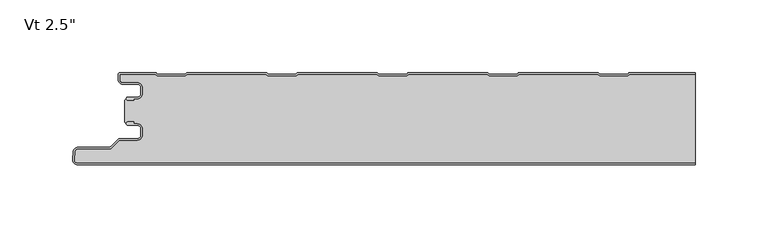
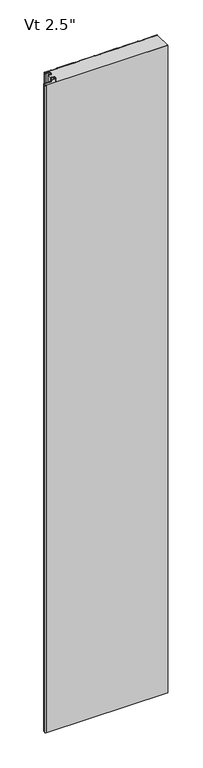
"""IFC4 building model written with IfcOpenShell, lengths in millimetres: plate geometry."""

from ifc_helpers import new_model, si_unit, point, frame, frame_2d, origin, origin_with_axes, place, context, project, spatial, polyline, circle_curve, trimmed, segment, composite_curve, outline, extrude, source, transform, mapped, element, save
from ifc_brep_helpers import plane_surface, cylinder_surface, revolved_surface, advanced_brep


def plate_b5c5fbf1(model_context):
    return source(origin(), model_context, "Body", "SolidModel", [
        advanced_brep(
        [(-194.568691, -17.0015405, 2400.0), (-195.5686883, -18.0015437, 2400.0), (-194.568691, -19.0015351, 2400.0), (-190.5684874, -19.0015351, 2400.0), (-190.5684874, -18.0015405, 2400.0), (-187.8762776, -18.0015405, 2400.0), (-184.5762819, -14.7015449, 2400.0), (-184.5762819, -10.3015536, 2400.0), (-187.8762774, -7.0015581, 2400.0), (-198.2962563, -7.0015581, 2400.0), (-200.0662505, -5.2315639, 2400.0), (-200.0662505, -1.0000163, 2400.0), (-175.5659738, -1.0000163, 2400.0), (-174.1803312, -2.2002553, 2400.0), (-154.8051649, -2.2002553, 2400.0), (-153.419532, -1.0000246, 2400.0), (-99.3661166, -1.0000246, 2400.0), (-97.9804836, -2.2002553, 2400.0), (-78.6053173, -2.2002553, 2400.0), (-77.2196844, -1.0000246, 2400.0), (-23.166269, -1.0000246, 2400.0), (-21.780636, -2.2002553, 2400.0), (-2.4054697, -2.2002553, 2400.0), (-1.0198368, -1.0000246, 2400.0), (53.0335786, -1.0000246, 2400.0), (54.4192116, -2.2002553, 2400.0), (73.7943779, -2.2002553, 2400.0), (75.1800108, -1.0000246, 2400.0), (129.2334262, -1.0000246, 2400.0), (130.6190592, -2.2002553, 2400.0), (149.9942255, -2.2002553, 2400.0), (151.3798584, -1.0000246, 2400.0), (196.5999998, -1.0000246, 2400.0), (196.5999998, -2.46e-05, 2400.0), (151.5290096, -2.46e-05, 2400.0), (150.6123927, -0.3418131, 2400.0), (149.6213451, -1.2002553, 2400.0), (130.9919396, -1.2002553, 2400.0), (130.000892, -0.3418131, 2400.0), (129.0842751, -2.46e-05, 2400.0), (75.329162, -2.46e-05, 2400.0), (74.4125451, -0.3418131, 2400.0), (73.4214975, -1.2002553, 2400.0), (54.792092, -1.2002553, 2400.0), (53.8010444, -0.3418131, 2400.0), (52.8844275, -2.46e-05, 2400.0), (-0.8706856, -2.46e-05, 2400.0), (-1.7873025, -0.3418131, 2400.0), (-2.7783501, -1.2002553, 2400.0), (-21.4077556, -1.2002553, 2400.0), (-22.3988032, -0.3418131, 2400.0), (-23.3154201, -2.46e-05, 2400.0), (-77.0705332, -2.46e-05, 2400.0), (-77.9871501, -0.3418131, 2400.0), (-78.9781977, -1.2002553, 2400.0), (-97.6076032, -1.2002553, 2400.0), (-98.5986508, -0.3418131, 2400.0), (-99.5152677, -2.46e-05, 2400.0), (-153.2703808, -2.46e-05, 2400.0), (-154.1869977, -0.3418131, 2400.0), (-155.1780453, -1.2002553, 2400.0), (-173.8074508, -1.2002553, 2400.0), (-174.7984984, -0.3418131, 2400.0), (-175.7152067, -2.46e-05, 2400.0), (-199.6662543, -1.63e-05, 2400.0), (-201.0662505, -1.4000124, 2400.0), (-201.0662505, -5.2315639, 2400.0), (-198.2962563, -8.0015581, 2400.0), (-187.8762774, -8.0015581, 2400.0), (-185.5762819, -10.3015536, 2400.0), (-185.5762819, -14.7015449, 2400.0), (-187.8762776, -17.0015405, 2400.0), (-194.568691, -17.0015405, 0.0), (-187.8762776, -17.0015405, 0.0), (-185.5762819, -14.7015449, 0.0), (-185.5762819, -10.3015536, 0.0), (-187.8762774, -8.0015581, 0.0), (-198.2962563, -8.0015581, 0.0), (-201.0662505, -5.2315639, 0.0), (-201.0662505, -1.4000124, 0.0), (-199.6662543, -1.63e-05, 0.0), (-175.7151153, -1.63e-05, 0.0), (-174.7984984, -0.3418131, 0.0), (-173.8074508, -1.2002553, 0.0), (-155.1780453, -1.2002553, 0.0), (-154.1869977, -0.3418131, 0.0), (-153.2703808, -2.46e-05, 0.0), (-99.5152677, -2.46e-05, 0.0), (-98.5986508, -0.3418131, 0.0), (-97.6076032, -1.2002553, 0.0), (-78.9781977, -1.2002553, 0.0), (-77.9871501, -0.3418131, 0.0), (-77.0705332, -2.46e-05, 0.0), (-23.3154201, -2.46e-05, 0.0), (-22.3988032, -0.3418131, 0.0), (-21.4077556, -1.2002553, 0.0), (-2.7783501, -1.2002553, 0.0), (-1.7873025, -0.3418131, 0.0), (-0.8706856, -2.46e-05, 0.0), (52.8844275, -2.46e-05, 0.0), (53.8010444, -0.3418131, 0.0), (54.792092, -1.2002553, 0.0), (73.4214975, -1.2002553, 0.0), (74.4125451, -0.3418131, 0.0), (75.329162, -2.46e-05, 0.0), (129.0842751, -2.46e-05, 0.0), (130.000892, -0.3418131, 0.0), (130.9919396, -1.2002553, 0.0), (149.6213451, -1.2002553, 0.0), (150.6123927, -0.3418131, 0.0), (151.5290096, -2.46e-05, 0.0), (196.5999998, -2.46e-05, 0.0), (196.5999998, -1.0000246, 0.0), (151.3798584, -1.0000246, 0.0), (149.9942255, -2.2002553, 0.0), (130.6190592, -2.2002553, 0.0), (129.2334262, -1.0000246, 0.0), (75.1800108, -1.0000246, 0.0), (73.7943779, -2.2002553, 0.0), (54.4192116, -2.2002553, 0.0), (53.0335786, -1.0000246, 0.0), (-1.0198368, -1.0000246, 0.0), (-2.4054697, -2.2002553, 0.0), (-21.780636, -2.2002553, 0.0), (-23.166269, -1.0000246, 0.0), (-77.2196844, -1.0000246, 0.0), (-78.6053173, -2.2002553, 0.0), (-97.9804836, -2.2002553, 0.0), (-99.3661166, -1.0000246, 0.0), (-153.419532, -1.0000246, 0.0), (-154.8051649, -2.2002553, 0.0), (-174.1803312, -2.2002553, 0.0), (-175.5659738, -1.0000163, 0.0), (-200.0662505, -1.0000163, 0.0), (-200.0662505, -5.2315639, 0.0), (-198.2962563, -7.0015581, 0.0), (-187.8762774, -7.0015581, 0.0), (-184.5762819, -10.3015536, 0.0), (-184.5762819, -14.7015449, 0.0), (-187.8762776, -18.0015405, 0.0), (-190.5684874, -18.0015405, 0.0), (-190.5684874, -19.0015351, 0.0), (-194.568691, -19.0015351, 0.0), (-195.5686882, -18.0015438, 0.0)],
        [
            (0, 1, circle_curve(frame((-194.568691, -18.0015378, 2400.0), z_axis=(0.0, 0.0, 1.0), x_axis=(1.0, 0.0, 0.0)), 0.9999973)),
            (1, 2, circle_curve(frame((-194.568691, -18.0015379, 2400.0), z_axis=(0.0, 0.0, 1.0), x_axis=(1.0, 0.0, 0.0)), 0.9999972)),
            (2, 3),
            (3, 4),
            (4, 5),
            (5, 6, circle_curve(frame((-187.8762776, -14.7015449, 2400.0), z_axis=(0.0, 0.0, 1.0), x_axis=(1.0, 0.0, 0.0)), 3.2999957)),
            (6, 7),
            (7, 8, circle_curve(frame((-187.8762774, -10.3015536, 2400.0), z_axis=(0.0, 0.0, 1.0), x_axis=(1.0, 0.0, 0.0)), 3.2999955)),
            (8, 9),
            (9, 10, circle_curve(frame((-198.2962563, -5.2315639, 2400.0), z_axis=(0.0, 0.0, -1.0), x_axis=(1.0, 0.0, 0.0)), 1.7699942)),
            (10, 11),
            (11, 12),
            (12, 13),
            (13, 14),
            (14, 15),
            (15, 16),
            (16, 17),
            (17, 18),
            (18, 19),
            (19, 20),
            (20, 21),
            (21, 22),
            (22, 23),
            (23, 24),
            (24, 25),
            (25, 26),
            (26, 27),
            (27, 28),
            (28, 29),
            (29, 30),
            (30, 31),
            (31, 32),
            (32, 33),
            (33, 34),
            (34, 35, circle_curve(frame((151.5290096, -1.4000218, 2400.0), z_axis=(0.0, 0.0, 1.0), x_axis=(1.0, 0.0, 0.0)), 1.3999972)),
            (35, 36),
            (36, 37),
            (37, 38),
            (38, 39, circle_curve(frame((129.0842751, -1.4000218, 2400.0), z_axis=(0.0, 0.0, 1.0), x_axis=(1.0, 0.0, 0.0)), 1.3999972)),
            (39, 40),
            (40, 41, circle_curve(frame((75.329162, -1.4000218, 2400.0), z_axis=(0.0, 0.0, 1.0), x_axis=(1.0, 0.0, 0.0)), 1.3999972)),
            (41, 42),
            (42, 43),
            (43, 44),
            (44, 45, circle_curve(frame((52.8844275, -1.4000218, 2400.0), z_axis=(0.0, 0.0, 1.0), x_axis=(1.0, 0.0, 0.0)), 1.3999972)),
            (45, 46),
            (46, 47, circle_curve(frame((-0.8706856, -1.4000218, 2400.0), z_axis=(0.0, 0.0, 1.0), x_axis=(1.0, 0.0, 0.0)), 1.3999972)),
            (47, 48),
            (48, 49),
            (49, 50),
            (50, 51, circle_curve(frame((-23.3154201, -1.4000218, 2400.0), z_axis=(0.0, 0.0, 1.0), x_axis=(1.0, 0.0, 0.0)), 1.3999972)),
            (51, 52),
            (52, 53, circle_curve(frame((-77.0705332, -1.4000218, 2400.0), z_axis=(0.0, 0.0, 1.0), x_axis=(1.0, 0.0, 0.0)), 1.3999972)),
            (53, 54),
            (54, 55),
            (55, 56),
            (56, 57, circle_curve(frame((-99.5152677, -1.4000218, 2400.0), z_axis=(0.0, 0.0, 1.0), x_axis=(1.0, 0.0, 0.0)), 1.3999972)),
            (57, 58),
            (58, 59, circle_curve(frame((-153.2703808, -1.4000218, 2400.0), z_axis=(0.0, 0.0, 1.0), x_axis=(1.0, 0.0, 0.0)), 1.3999972)),
            (59, 60),
            (60, 61),
            (61, 62),
            (62, 63, circle_curve(frame((-175.7151153, -1.4000218, 2400.0), z_axis=(0.0, 0.0, 1.0), x_axis=(1.0, 0.0, 0.0)), 1.3999972)),
            (63, 64),
            (64, 65, circle_curve(frame((-199.6662543, -1.4000124, 2400.0), z_axis=(0.0, 0.0, 1.0), x_axis=(1.0, 0.0, 0.0)), 1.3999962)),
            (65, 66),
            (66, 67, circle_curve(frame((-198.2962563, -5.2315639, 2400.0), z_axis=(0.0, 0.0, 1.0), x_axis=(1.0, 0.0, 0.0)), 2.7699942)),
            (67, 68),
            (68, 69, circle_curve(frame((-187.8762774, -10.3015536, 2400.0), z_axis=(0.0, 0.0, -1.0), x_axis=(1.0, 0.0, 0.0)), 2.2999955)),
            (69, 70),
            (70, 71, circle_curve(frame((-187.8762776, -14.7015449, 2400.0), z_axis=(0.0, 0.0, -1.0), x_axis=(1.0, 0.0, 0.0)), 2.2999957)),
            (71, 0),
            (72, 73),
            (73, 74, circle_curve(frame((-187.8762776, -14.7015449, 0.0), z_axis=(0.0, 0.0, 1.0), x_axis=(1.0, 0.0, 0.0)), 2.2999957)),
            (74, 75),
            (75, 76, circle_curve(frame((-187.8762774, -10.3015536, 0.0), z_axis=(0.0, 0.0, 1.0), x_axis=(1.0, 0.0, 0.0)), 2.2999955)),
            (76, 77),
            (77, 78, circle_curve(frame((-198.2962563, -5.2315639, 0.0), z_axis=(0.0, 0.0, -1.0), x_axis=(1.0, 0.0, 0.0)), 2.7699942)),
            (78, 79),
            (79, 80, circle_curve(frame((-199.6662543, -1.4000124, 0.0), z_axis=(0.0, 0.0, -1.0), x_axis=(1.0, 0.0, 0.0)), 1.3999962)),
            (80, 81),
            (81, 82, circle_curve(frame((-175.7151153, -1.4000218, 0.0), z_axis=(0.0, 0.0, -1.0), x_axis=(1.0, 0.0, 0.0)), 1.3999972)),
            (82, 83),
            (83, 84),
            (84, 85),
            (85, 86, circle_curve(frame((-153.2703808, -1.4000218, 0.0), z_axis=(0.0, 0.0, -1.0), x_axis=(1.0, 0.0, 0.0)), 1.3999972)),
            (86, 87),
            (87, 88, circle_curve(frame((-99.5152677, -1.4000218, 0.0), z_axis=(0.0, 0.0, -1.0), x_axis=(1.0, 0.0, 0.0)), 1.3999972)),
            (88, 89),
            (89, 90),
            (90, 91),
            (91, 92, circle_curve(frame((-77.0705332, -1.4000218, 0.0), z_axis=(0.0, 0.0, -1.0), x_axis=(1.0, 0.0, 0.0)), 1.3999972)),
            (92, 93),
            (93, 94, circle_curve(frame((-23.3154201, -1.4000218, 0.0), z_axis=(0.0, 0.0, -1.0), x_axis=(1.0, 0.0, 0.0)), 1.3999972)),
            (94, 95),
            (95, 96),
            (96, 97),
            (97, 98, circle_curve(frame((-0.8706856, -1.4000218, 0.0), z_axis=(0.0, 0.0, -1.0), x_axis=(1.0, 0.0, 0.0)), 1.3999972)),
            (98, 99),
            (99, 100, circle_curve(frame((52.8844275, -1.4000218, 0.0), z_axis=(0.0, 0.0, -1.0), x_axis=(1.0, 0.0, 0.0)), 1.3999972)),
            (100, 101),
            (101, 102),
            (102, 103),
            (103, 104, circle_curve(frame((75.329162, -1.4000218, 0.0), z_axis=(0.0, 0.0, -1.0), x_axis=(1.0, 0.0, 0.0)), 1.3999972)),
            (104, 105),
            (105, 106, circle_curve(frame((129.0842751, -1.4000218, 0.0), z_axis=(0.0, 0.0, -1.0), x_axis=(1.0, 0.0, 0.0)), 1.3999972)),
            (106, 107),
            (107, 108),
            (108, 109),
            (109, 110, circle_curve(frame((151.5290096, -1.4000218, 0.0), z_axis=(0.0, 0.0, -1.0), x_axis=(1.0, 0.0, 0.0)), 1.3999972)),
            (110, 111),
            (111, 112),
            (112, 113),
            (113, 114),
            (114, 115),
            (115, 116),
            (116, 117),
            (117, 118),
            (118, 119),
            (119, 120),
            (120, 121),
            (121, 122),
            (122, 123),
            (123, 124),
            (124, 125),
            (125, 126),
            (126, 127),
            (127, 128),
            (128, 129),
            (129, 130),
            (130, 131),
            (131, 132),
            (132, 133),
            (133, 134),
            (134, 135, circle_curve(frame((-198.2962563, -5.2315639, 0.0), z_axis=(0.0, 0.0, 1.0), x_axis=(1.0, 0.0, 0.0)), 1.7699942)),
            (135, 136),
            (136, 137, circle_curve(frame((-187.8762774, -10.3015536, 0.0), z_axis=(0.0, 0.0, -1.0), x_axis=(1.0, 0.0, 0.0)), 3.2999955)),
            (137, 138),
            (138, 139, circle_curve(frame((-187.8762776, -14.7015449, 0.0), z_axis=(0.0, 0.0, -1.0), x_axis=(1.0, 0.0, 0.0)), 3.2999957)),
            (139, 140),
            (140, 141),
            (141, 142),
            (142, 143, circle_curve(frame((-194.568691, -18.0015379, 0.0), z_axis=(0.0, 0.0, -1.0), x_axis=(1.0, 0.0, 0.0)), 0.9999972)),
            (143, 72, circle_curve(frame((-194.568691, -18.0015378, 0.0), z_axis=(0.0, 0.0, -1.0), x_axis=(1.0, 0.0, 0.0)), 0.9999973)),
            (32, 112),
            (111, 33),
            (71, 73),
            (72, 0),
            (70, 74),
            (69, 75),
            (68, 76),
            (67, 77),
            (66, 78),
            (65, 79),
            (64, 80),
            (63, 81),
            (62, 82),
            (61, 83),
            (60, 84),
            (59, 85),
            (58, 86),
            (57, 87),
            (56, 88),
            (55, 89),
            (54, 90),
            (53, 91),
            (52, 92),
            (51, 93),
            (50, 94),
            (49, 95),
            (48, 96),
            (47, 97),
            (46, 98),
            (45, 99),
            (44, 100),
            (43, 101),
            (42, 102),
            (41, 103),
            (40, 104),
            (39, 105),
            (38, 106),
            (37, 107),
            (36, 108),
            (35, 109),
            (34, 110),
            (31, 113),
            (30, 114),
            (29, 115),
            (28, 116),
            (27, 117),
            (26, 118),
            (25, 119),
            (24, 120),
            (23, 121),
            (22, 122),
            (21, 123),
            (20, 124),
            (19, 125),
            (18, 126),
            (17, 127),
            (16, 128),
            (15, 129),
            (14, 130),
            (13, 131),
            (12, 132),
            (11, 133),
            (10, 134),
            (9, 135),
            (8, 136),
            (7, 137),
            (6, 138),
            (5, 139),
            (4, 140),
            (3, 141),
            (2, 142),
            (1, 143),
        ],
        [
            plane_surface(frame((336.8000002, -2.46e-05, 2400.0), z_axis=(0.0, 0.0, 1.0), x_axis=(0.0, 1.0, 0.0))),
            plane_surface(frame((336.8000002, -2.46e-05, 0.0), z_axis=(0.0, 0.0, -1.0), x_axis=(0.0, 1.0, 0.0))),
            plane_surface(frame((196.5999998, -73.5000246, 2400.0), z_axis=(1.0, 0.0, 0.0), x_axis=(0.0, 0.0, -1.0))),
            plane_surface(frame((-194.568691, -17.0015405, 2400.0), z_axis=(0.0, 1.0, 0.0), x_axis=(0.0, 0.0, -1.0))),
            revolved_surface(polyline([(-185.5762819, -14.7015449, 0.0), (-185.5762819, -14.7015449, 2400.0)]), (-187.8762776, -14.7015449, 2400.0), (0.0, 0.0, -1.0)),
            plane_surface(frame((-185.5762819, -14.7015449, 2400.0), z_axis=(-1.0, 0.0, 0.0), x_axis=(0.0, 0.0, -1.0))),
            revolved_surface(polyline([(-185.5762819, -10.3015536, 0.0), (-185.5762819, -10.3015536, 2400.0)]), (-187.8762774, -10.3015536, 2400.0), (0.0, 0.0, -1.0)),
            plane_surface(frame((-187.8762774, -8.0015581, 2400.0), z_axis=(0.0, -1.0, 0.0), x_axis=(0.0, 0.0, -1.0))),
            cylinder_surface(frame((-198.2962563, -5.2315639, 2400.0), z_axis=(0.0, 0.0, 1.0), x_axis=(1.0, 0.0, 0.0)), 2.7699942),
            plane_surface(frame((-201.0662505, -5.2315639, 2400.0), z_axis=(-1.0, 0.0, 0.0), x_axis=(0.0, 0.0, -1.0))),
            cylinder_surface(frame((-199.6662543, -1.4000124, 2400.0), z_axis=(0.0, 0.0, 1.0), x_axis=(1.0, 0.0, 0.0)), 1.3999962),
            plane_surface(frame((-199.6662543, -1.63e-05, 2400.0), z_axis=(0.0, 1.0, 0.0), x_axis=(0.0, 0.0, -1.0))),
            cylinder_surface(frame((-175.7151153, -1.4000218, 2400.0), z_axis=(0.0, 0.0, 1.0), x_axis=(1.0, 0.0, 0.0)), 1.3999972),
            plane_surface(frame((-174.7984984, -0.3418131, 2400.0), z_axis=(0.6547276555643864, 0.7558648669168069, 0.0), x_axis=(0.0, 0.0, -1.0))),
            plane_surface(frame((-164.4927481, -1.2002553, 2400.0), z_axis=(0.0, 1.0, 0.0), x_axis=(0.0, 0.0, -1.0))),
            plane_surface(frame((-155.1780453, -1.2002553, 2400.0), z_axis=(-0.6547276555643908, 0.7558648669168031, 0.0), x_axis=(0.0, 0.0, -1.0))),
            cylinder_surface(frame((-153.2703808, -1.4000218, 2400.0), z_axis=(0.0, 0.0, 1.0), x_axis=(1.0, 0.0, 0.0)), 1.3999972),
            plane_surface(frame((-153.2703808, -2.46e-05, 2400.0), z_axis=(0.0, 1.0, 0.0), x_axis=(0.0, 0.0, -1.0))),
            cylinder_surface(frame((-99.5152677, -1.4000218, 2400.0), z_axis=(0.0, 0.0, 1.0), x_axis=(1.0, 0.0, 0.0)), 1.3999972),
            plane_surface(frame((-98.5986508, -0.3418131, 2400.0), z_axis=(0.6547276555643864, 0.7558648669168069, 0.0), x_axis=(0.0, 0.0, -1.0))),
            plane_surface(frame((-88.2929005, -1.2002553, 2400.0), z_axis=(0.0, 1.0, 0.0), x_axis=(0.0, 0.0, -1.0))),
            plane_surface(frame((-78.9781977, -1.2002553, 2400.0), z_axis=(-0.6547276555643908, 0.7558648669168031, 0.0), x_axis=(0.0, 0.0, -1.0))),
            cylinder_surface(frame((-77.0705332, -1.4000218, 2400.0), z_axis=(0.0, 0.0, 1.0), x_axis=(1.0, 0.0, 0.0)), 1.3999972),
            plane_surface(frame((-77.0705332, -2.46e-05, 2400.0), z_axis=(0.0, 1.0, 0.0), x_axis=(0.0, 0.0, -1.0))),
            cylinder_surface(frame((-23.3154201, -1.4000218, 2400.0), z_axis=(0.0, 0.0, 1.0), x_axis=(1.0, 0.0, 0.0)), 1.3999972),
            plane_surface(frame((-22.3988032, -0.3418131, 2400.0), z_axis=(0.6547276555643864, 0.7558648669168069, 0.0), x_axis=(0.0, 0.0, -1.0))),
            plane_surface(frame((-12.0930529, -1.2002553, 2400.0), z_axis=(0.0, 1.0, 0.0), x_axis=(0.0, 0.0, -1.0))),
            plane_surface(frame((-2.7783501, -1.2002553, 2400.0), z_axis=(-0.6547276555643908, 0.7558648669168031, 0.0), x_axis=(0.0, 0.0, -1.0))),
            cylinder_surface(frame((-0.8706856, -1.4000218, 2400.0), z_axis=(0.0, 0.0, 1.0), x_axis=(1.0, 0.0, 0.0)), 1.3999972),
            plane_surface(frame((-0.8706856, -2.46e-05, 2400.0), z_axis=(0.0, 1.0, 0.0), x_axis=(0.0, 0.0, -1.0))),
            cylinder_surface(frame((52.8844275, -1.4000218, 2400.0), z_axis=(0.0, 0.0, 1.0), x_axis=(1.0, 0.0, 0.0)), 1.3999972),
            plane_surface(frame((53.8010444, -0.3418131, 2400.0), z_axis=(0.6547276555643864, 0.7558648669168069, 0.0), x_axis=(0.0, 0.0, -1.0))),
            plane_surface(frame((64.1067947, -1.2002553, 2400.0), z_axis=(0.0, 1.0, 0.0), x_axis=(0.0, 0.0, -1.0))),
            plane_surface(frame((73.4214975, -1.2002553, 2400.0), z_axis=(-0.6547276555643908, 0.7558648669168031, 0.0), x_axis=(0.0, 0.0, -1.0))),
            cylinder_surface(frame((75.329162, -1.4000218, 2400.0), z_axis=(0.0, 0.0, 1.0), x_axis=(1.0, 0.0, 0.0)), 1.3999972),
            plane_surface(frame((75.329162, -2.46e-05, 2400.0), z_axis=(0.0, 1.0, 0.0), x_axis=(0.0, 0.0, -1.0))),
            cylinder_surface(frame((129.0842751, -1.4000218, 2400.0), z_axis=(0.0, 0.0, 1.0), x_axis=(1.0, 0.0, 0.0)), 1.3999972),
            plane_surface(frame((130.000892, -0.3418131, 2400.0), z_axis=(0.6547276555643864, 0.7558648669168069, 0.0), x_axis=(0.0, 0.0, -1.0))),
            plane_surface(frame((140.3066423, -1.2002553, 2400.0), z_axis=(0.0, 1.0, 0.0), x_axis=(0.0, 0.0, -1.0))),
            plane_surface(frame((149.6213451, -1.2002553, 2400.0), z_axis=(-0.6547276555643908, 0.7558648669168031, 0.0), x_axis=(0.0, 0.0, -1.0))),
            cylinder_surface(frame((151.5290096, -1.4000218, 2400.0), z_axis=(0.0, 0.0, 1.0), x_axis=(1.0, 0.0, 0.0)), 1.3999972),
            plane_surface(frame((151.5290096, -2.46e-05, 2400.0), z_axis=(0.0, 1.0, 0.0), x_axis=(0.0, 0.0, -1.0))),
            plane_surface(frame((205.4332738, -1.0000246, 2400.0), z_axis=(0.0, -1.0, 0.0), x_axis=(0.0, 0.0, -1.0))),
            plane_surface(frame((151.3798584, -1.0000246, 2400.0), z_axis=(0.6547276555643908, -0.7558648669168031, 0.0), x_axis=(0.0, 0.0, -1.0))),
            plane_surface(frame((149.9942255, -2.2002553, 2400.0), z_axis=(0.0, -1.0, 0.0), x_axis=(0.0, 0.0, -1.0))),
            plane_surface(frame((130.6190592, -2.2002553, 2400.0), z_axis=(-0.6547276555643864, -0.7558648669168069, 0.0), x_axis=(0.0, 0.0, -1.0))),
            plane_surface(frame((129.2334262, -1.0000246, 2400.0), z_axis=(0.0, -1.0, 0.0), x_axis=(0.0, 0.0, -1.0))),
            plane_surface(frame((75.1800108, -1.0000246, 2400.0), z_axis=(0.6547276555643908, -0.7558648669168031, 0.0), x_axis=(0.0, 0.0, -1.0))),
            plane_surface(frame((73.7943779, -2.2002553, 2400.0), z_axis=(0.0, -1.0, 0.0), x_axis=(0.0, 0.0, -1.0))),
            plane_surface(frame((54.4192116, -2.2002553, 2400.0), z_axis=(-0.6547276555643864, -0.7558648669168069, 0.0), x_axis=(0.0, 0.0, -1.0))),
            plane_surface(frame((53.0335786, -1.0000246, 2400.0), z_axis=(0.0, -1.0, 0.0), x_axis=(0.0, 0.0, -1.0))),
            plane_surface(frame((-1.0198368, -1.0000246, 2400.0), z_axis=(0.6547276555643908, -0.7558648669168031, 0.0), x_axis=(0.0, 0.0, -1.0))),
            plane_surface(frame((-2.4054697, -2.2002553, 2400.0), z_axis=(0.0, -1.0, 0.0), x_axis=(0.0, 0.0, -1.0))),
            plane_surface(frame((-21.780636, -2.2002553, 2400.0), z_axis=(-0.6547276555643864, -0.7558648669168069, 0.0), x_axis=(0.0, 0.0, -1.0))),
            plane_surface(frame((-23.166269, -1.0000246, 2400.0), z_axis=(0.0, -1.0, 0.0), x_axis=(0.0, 0.0, -1.0))),
            plane_surface(frame((-77.2196844, -1.0000246, 2400.0), z_axis=(0.6547276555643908, -0.7558648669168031, 0.0), x_axis=(0.0, 0.0, -1.0))),
            plane_surface(frame((-78.6053173, -2.2002553, 2400.0), z_axis=(0.0, -1.0, 0.0), x_axis=(0.0, 0.0, -1.0))),
            plane_surface(frame((-97.9804836, -2.2002553, 2400.0), z_axis=(-0.6547276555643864, -0.7558648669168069, 0.0), x_axis=(0.0, 0.0, -1.0))),
            plane_surface(frame((-99.3661166, -1.0000246, 2400.0), z_axis=(0.0, -1.0, 0.0), x_axis=(0.0, 0.0, -1.0))),
            plane_surface(frame((-153.419532, -1.0000246, 2400.0), z_axis=(0.6547276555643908, -0.7558648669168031, 0.0), x_axis=(0.0, 0.0, -1.0))),
            plane_surface(frame((-154.8051649, -2.2002553, 2400.0), z_axis=(0.0, -1.0, 0.0), x_axis=(0.0, 0.0, -1.0))),
            plane_surface(frame((-174.1803312, -2.2002553, 2400.0), z_axis=(-0.6547276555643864, -0.7558648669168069, 0.0), x_axis=(0.0, 0.0, -1.0))),
            plane_surface(frame((-175.5659738, -1.0000163, 2400.0), z_axis=(0.0, -1.0, 0.0), x_axis=(0.0, 0.0, -1.0))),
            plane_surface(frame((-200.0662505, -1.0000163, 2400.0), z_axis=(1.0, 0.0, 0.0), x_axis=(0.0, 0.0, -1.0))),
            revolved_surface(polyline([(-196.5262621, -5.2315639, 0.0), (-196.5262621, -5.2315639, 2400.0)]), (-198.2962563, -5.2315639, 2400.0), (0.0, 0.0, -1.0)),
            plane_surface(frame((-198.2962563, -7.0015581, 2400.0), z_axis=(0.0, 1.0, 0.0), x_axis=(0.0, 0.0, -1.0))),
            cylinder_surface(frame((-187.8762774, -10.3015536, 2400.0), z_axis=(0.0, 0.0, 1.0), x_axis=(1.0, 0.0, 0.0)), 3.2999955),
            plane_surface(frame((-184.5762819, -10.3015536, 2400.0), z_axis=(1.0, 0.0, 0.0), x_axis=(0.0, 0.0, -1.0))),
            cylinder_surface(frame((-187.8762776, -14.7015449, 2400.0), z_axis=(0.0, 0.0, 1.0), x_axis=(1.0, 0.0, 0.0)), 3.2999957),
            plane_surface(frame((-187.8762776, -18.0015405, 2400.0), z_axis=(0.0, -1.0, 0.0), x_axis=(0.0, 0.0, -1.0))),
            plane_surface(frame((-190.5684874, -18.0015405, 2400.0), z_axis=(1.0, 0.0, 0.0), x_axis=(0.0, 0.0, -1.0))),
            plane_surface(frame((-190.5684874, -19.0015351, 2400.0), z_axis=(0.0, -1.0, 0.0), x_axis=(0.0, 0.0, -1.0))),
            cylinder_surface(frame((-194.568691, -18.0015379, 2400.0), z_axis=(0.0, 0.0, 1.0), x_axis=(1.0, 0.0, 0.0)), 0.9999972),
            cylinder_surface(frame((-194.568691, -18.0015378, 2400.0), z_axis=(0.0, 0.0, 1.0), x_axis=(1.0, 0.0, 0.0)), 0.9999973),
        ],
        [
            (0, [[1, 2, 3, 4, 5, 6, 7, 8, 9, 10, 11, 12, 13, 14, 15, 16, 17, 18, 19, 20, 21, 22, 23, 24, 25, 26, 27, 28, 29, 30, 31, 32, 33, 34, 35, 36, 37, 38, 39, 40, 41, 42, 43, 44, 45, 46, 47, 48, 49, 50, 51, 52, 53, 54, 55, 56, 57, 58, 59, 60, 61, 62, 63, 64, 65, 66, 67, 68, 69, 70, 71, 72]]),
            (1, [[73, 74, 75, 76, 77, 78, 79, 80, 81, 82, 83, 84, 85, 86, 87, 88, 89, 90, 91, 92, 93, 94, 95, 96, 97, 98, 99, 100, 101, 102, 103, 104, 105, 106, 107, 108, 109, 110, 111, 112, 113, 114, 115, 116, 117, 118, 119, 120, 121, 122, 123, 124, 125, 126, 127, 128, 129, 130, 131, 132, 133, 134, 135, 136, 137, 138, 139, 140, 141, 142, 143, 144]]),
            (2, [[145, -112, 146, -33]]),
            (3, [[147, -73, 148, -72]]),
            (4, [[149, -74, -147, -71]]),
            (5, [[150, -75, -149, -70]]),
            (6, [[151, -76, -150, -69]]),
            (7, [[152, -77, -151, -68]]),
            (8, [[153, -78, -152, -67]]),
            (9, [[154, -79, -153, -66]]),
            (10, [[155, -80, -154, -65]]),
            (11, [[156, -81, -155, -64]]),
            (12, [[157, -82, -156, -63]]),
            (13, [[158, -83, -157, -62]]),
            (14, [[159, -84, -158, -61]]),
            (15, [[160, -85, -159, -60]]),
            (16, [[161, -86, -160, -59]]),
            (17, [[162, -87, -161, -58]]),
            (18, [[163, -88, -162, -57]]),
            (19, [[164, -89, -163, -56]]),
            (20, [[165, -90, -164, -55]]),
            (21, [[166, -91, -165, -54]]),
            (22, [[167, -92, -166, -53]]),
            (23, [[168, -93, -167, -52]]),
            (24, [[169, -94, -168, -51]]),
            (25, [[170, -95, -169, -50]]),
            (26, [[171, -96, -170, -49]]),
            (27, [[172, -97, -171, -48]]),
            (28, [[173, -98, -172, -47]]),
            (29, [[174, -99, -173, -46]]),
            (30, [[175, -100, -174, -45]]),
            (31, [[176, -101, -175, -44]]),
            (32, [[177, -102, -176, -43]]),
            (33, [[178, -103, -177, -42]]),
            (34, [[179, -104, -178, -41]]),
            (35, [[180, -105, -179, -40]]),
            (36, [[181, -106, -180, -39]]),
            (37, [[182, -107, -181, -38]]),
            (38, [[183, -108, -182, -37]]),
            (39, [[184, -109, -183, -36]]),
            (40, [[185, -110, -184, -35]]),
            (41, [[-34, -146, -111, -185]]),
            (42, [[-113, -145, -32, 186]]),
            (43, [[187, -114, -186, -31]]),
            (44, [[188, -115, -187, -30]]),
            (45, [[189, -116, -188, -29]]),
            (46, [[190, -117, -189, -28]]),
            (47, [[191, -118, -190, -27]]),
            (48, [[192, -119, -191, -26]]),
            (49, [[193, -120, -192, -25]]),
            (50, [[194, -121, -193, -24]]),
            (51, [[195, -122, -194, -23]]),
            (52, [[196, -123, -195, -22]]),
            (53, [[197, -124, -196, -21]]),
            (54, [[198, -125, -197, -20]]),
            (55, [[199, -126, -198, -19]]),
            (56, [[200, -127, -199, -18]]),
            (57, [[201, -128, -200, -17]]),
            (58, [[202, -129, -201, -16]]),
            (59, [[203, -130, -202, -15]]),
            (60, [[204, -131, -203, -14]]),
            (61, [[205, -132, -204, -13]]),
            (62, [[206, -133, -205, -12]]),
            (63, [[207, -134, -206, -11]]),
            (64, [[208, -135, -207, -10]]),
            (65, [[209, -136, -208, -9]]),
            (66, [[210, -137, -209, -8]]),
            (67, [[211, -138, -210, -7]]),
            (68, [[212, -139, -211, -6]]),
            (69, [[213, -140, -212, -5]]),
            (70, [[214, -141, -213, -4]]),
            (71, [[215, -142, -214, -3]]),
            (72, [[216, -143, -215, -2]]),
            (73, [[-148, -144, -216, -1]]),
        ],
    ),
        extrude(outline(composite_curve([segment(polyline([(-232.6087619, -59.6191544), (-232.1690674, -54.5951077)]), True, "CONTINUOUS"), segment(trimmed(circle_curve(frame_2d((-228.5198391, -55.2059089)), 3.6999926), [point((-232.1690674, -54.5951077))], [point((-228.5198391, -51.5059163))], False, "CARTESIAN"), True, "CONTINUOUS"), segment(polyline([(-228.5198391, -51.5059163), (-207.3773995, -51.5059163)]), True, "CONTINUOUS"), segment(trimmed(circle_curve(frame_2d((-207.3773995, -50.2059189)), 1.2999974), [point((-207.3773995, -51.5059163))], [point((-206.4581626, -51.1251558))], True, "CARTESIAN"), True, "CONTINUOUS"), segment(polyline([(-206.4581626, -51.1251558), (-201.6297451, -46.2967384)]), True, "CONTINUOUS"), segment(trimmed(circle_curve(frame_2d((-199.7205606, -48.2059229)), 2.6999946), [point((-201.6297451, -46.2967384))], [point((-199.7205606, -45.5059283))], False, "CARTESIAN"), True, "CONTINUOUS"), segment(polyline([(-199.7205606, -45.5059283), (-187.9096715, -45.5059283)]), True, "CONTINUOUS"), segment(trimmed(circle_curve(frame_2d((-187.9096715, -43.155933)), 2.3499953), [point((-187.9096715, -45.5059283))], [point((-185.5596762, -43.155933))], True, "CARTESIAN"), True, "CONTINUOUS"), segment(polyline([(-185.5596762, -43.155933), (-185.5596762, -38.7559418)]), True, "CONTINUOUS"), segment(trimmed(circle_curve(frame_2d((-187.9096715, -38.7559418)), 2.3499953), [point((-185.5596762, -38.7559418))], [point((-187.9096715, -36.4059465))], True, "CARTESIAN"), True, "CONTINUOUS"), segment(polyline([(-187.9096715, -36.4059465), (-194.4289777, -36.4059465)]), True, "CONTINUOUS"), segment(trimmed(circle_curve(frame_2d((-194.3686906, -35.2074642)), 1.1999976), [point((-194.4289777, -36.4059465))], [point((-195.5683, -35.1769423))], False, "CARTESIAN"), True, "CONTINUOUS"), segment(trimmed(circle_curve(frame_2d((-194.3686906, -35.2074642)), 1.1999976), [point((-195.5683, -35.1769423))], [point((-194.367176, -34.0074676))], False, "CARTESIAN"), True, "CONTINUOUS"), segment(polyline([(-194.367176, -34.0074676), (-190.6087826, -34.0074676), (-190.6087826, -35.4059465), (-187.9096715, -35.4059465)]), True, "CONTINUOUS"), segment(trimmed(circle_curve(frame_2d((-187.9096715, -38.7559418)), 3.3499953), [point((-187.9096715, -35.4059465))], [point((-184.5596762, -38.7559418))], False, "CARTESIAN"), True, "CONTINUOUS"), segment(polyline([(-184.5596762, -38.7559418), (-184.5596762, -43.155933)]), True, "CONTINUOUS"), segment(trimmed(circle_curve(frame_2d((-187.9096715, -43.155933)), 3.3499953), [point((-184.5596762, -43.155933))], [point((-187.9096715, -46.5059283))], False, "CARTESIAN"), True, "CONTINUOUS"), segment(polyline([(-187.9096715, -46.5059283), (-199.7205606, -46.5059283)]), True, "CONTINUOUS"), segment(trimmed(circle_curve(frame_2d((-199.7205606, -48.2059229)), 1.6999946), [point((-199.7205606, -46.5059283))], [point((-200.9226383, -47.0038451))], True, "CARTESIAN"), True, "CONTINUOUS"), segment(polyline([(-200.9226383, -47.0038451), (-206.4247094, -52.5059163), (-228.5198391, -52.5059163)]), True, "CONTINUOUS"), segment(trimmed(circle_curve(frame_2d((-228.5198391, -55.2059089)), 2.6999926), [point((-228.5198391, -52.5059163))], [point((-231.1765707, -54.7245182))], True, "CARTESIAN"), True, "CONTINUOUS"), segment(polyline([(-231.1765707, -54.7245182), (-231.6125697, -59.7063391)]), True, "CONTINUOUS"), segment(trimmed(circle_curve(frame_2d((-229.0521175, -59.9304248)), 2.5702393), [point((-231.6125697, -59.7063391))], [point((-229.1094458, -62.5000246))], True, "CARTESIAN"), True, "CONTINUOUS"), segment(polyline([(-229.1094458, -62.5000246), (196.5999998, -62.5000246), (196.5999998, -63.5000246), (-229.1196851, -63.5000246)]), True, "CONTINUOUS"), segment(trimmed(circle_curve(frame_2d((-229.0521175, -59.9304248)), 3.5702393), [point((-229.1196851, -63.5000246))], [point((-232.6087619, -59.6191544))], False, "CARTESIAN"), True, "CONTINUOUS")], self_intersect=False)), origin_with_axes(), (0.0, 0.0, 1.0), 2400.0),
        advanced_brep(
        [(-195.5683, -35.1708996, 2400.0), (-194.367176, -34.0014249, 2400.0), (-190.6087826, -34.0014249, 2400.0), (-190.6087826, -35.3999038, 2400.0), (-187.9096715, -35.3999038, 2400.0), (-184.5596762, -38.7498991, 2400.0), (-184.5596762, -43.1498903, 2400.0), (-187.9096715, -46.4998856, 2400.0), (-199.7205606, -46.4998856, 2400.0), (-200.9226383, -46.9978025, 2400.0), (-206.4247094, -52.4998736, 2400.0), (-228.5198391, -52.4998736, 2400.0), (-231.1765707, -54.7184756, 2400.0), (-231.6125697, -59.7002964, 2400.0), (-229.0521175, -62.4946214, 2400.0), (196.5999998, -62.5000246, 2400.0), (196.5999998, -1.0000246, 2400.0), (151.3798585, -1.0000246, 2400.0), (149.9942255, -2.2002553, 2400.0), (130.6190592, -2.2002553, 2400.0), (129.2334263, -1.0000246, 2400.0), (75.1800109, -1.0000246, 2400.0), (73.7943779, -2.2002553, 2400.0), (54.4192116, -2.2002553, 2400.0), (53.0335787, -1.0000246, 2400.0), (-1.0198367, -1.0000246, 2400.0), (-2.4054697, -2.2002553, 2400.0), (-21.780636, -2.2002553, 2400.0), (-23.1662689, -1.0000246, 2400.0), (-77.2196843, -1.0000246, 2400.0), (-78.6053173, -2.2002553, 2400.0), (-97.9804836, -2.2002553, 2400.0), (-99.3661165, -1.0000246, 2400.0), (-153.4195319, -1.0000246, 2400.0), (-154.8051649, -2.2002553, 2400.0), (-174.1803312, -2.2002553, 2400.0), (-175.5659738, -1.0000163, 2400.0), (-200.0662504, -1.0000163, 2400.0), (-200.0662504, -5.2315636, 2400.0), (-198.2962562, -7.0015578, 2400.0), (-187.8762777, -7.0015578, 2400.0), (-184.5762818, -10.3015536, 2400.0), (-184.5762818, -14.7015449, 2400.0), (-187.8762775, -18.0015405, 2400.0), (-190.5684873, -18.0015405, 2400.0), (-190.5684873, -19.0015351, 2400.0), (-194.568691, -19.0015351, 2400.0), (-195.5686882, -18.0015438, 2400.0), (-196.5999998, -19.0328554, 2400.0), (-196.5999998, -34.1391997, 2400.0), (-195.5683, -35.1708996, 0.0), (-196.5999998, -34.1391997, 0.0), (-196.5999998, -19.0328554, 0.0), (-195.5686882, -18.0015438, 0.0), (-194.568691, -19.0015351, 0.0), (-190.5684873, -19.0015351, 0.0), (-190.5684873, -18.0015405, 0.0), (-187.8762775, -18.0015405, 0.0), (-184.5762818, -14.7015449, 0.0), (-184.5762818, -10.3015536, 0.0), (-187.8762777, -7.0015578, 0.0), (-198.2962562, -7.0015578, 0.0), (-200.0662504, -5.2315636, 0.0), (-200.0662504, -1.0000163, 0.0), (-175.5659738, -1.0000163, 0.0), (-174.1803312, -2.2002553, 0.0), (-154.8051649, -2.2002553, 0.0), (-153.4195319, -1.0000246, 0.0), (-99.3661165, -1.0000246, 0.0), (-97.9804836, -2.2002553, 0.0), (-78.6053173, -2.2002553, 0.0), (-77.2196843, -1.0000246, 0.0), (-23.1662689, -1.0000246, 0.0), (-21.780636, -2.2002553, 0.0), (-2.4054697, -2.2002553, 0.0), (-1.0198367, -1.0000246, 0.0), (53.0335787, -1.0000246, 0.0), (54.4192116, -2.2002553, 0.0), (73.7943779, -2.2002553, 0.0), (75.1800109, -1.0000246, 0.0), (129.2334263, -1.0000246, 0.0), (130.6190592, -2.2002553, 0.0), (149.9942255, -2.2002553, 0.0), (151.3798585, -1.0000246, 0.0), (196.5999998, -1.0000246, 0.0), (196.5999998, -62.5000246, 0.0), (-229.0521175, -62.5000246, 0.0), (-231.6125697, -59.7002964, 0.0), (-231.1765707, -54.7184756, 0.0), (-228.5198391, -52.4998736, 0.0), (-206.4247094, -52.4998736, 0.0), (-200.9226383, -46.9978025, 0.0), (-199.7205606, -46.4998856, 0.0), (-187.9096715, -46.4998856, 0.0), (-184.5596762, -43.1498903, 0.0), (-184.5596762, -38.7498991, 0.0), (-187.9096715, -35.3999038, 0.0), (-190.6087826, -35.3999038, 0.0), (-190.6087826, -34.0014249, 0.0), (-194.367176, -34.0014249, 0.0)],
        [
            (0, 1, circle_curve(frame((-194.3686906, -35.2014215, 2400.0), z_axis=(0.0, 0.0, -1.0), x_axis=(-1.0, 0.0, 0.0)), 1.1999976)),
            (1, 2),
            (2, 3),
            (3, 4),
            (4, 5, circle_curve(frame((-187.9096715, -38.7498991, 2400.0), z_axis=(0.0, 0.0, -1.0), x_axis=(-1.0, 0.0, 0.0)), 3.3499953)),
            (5, 6),
            (6, 7, circle_curve(frame((-187.9096715, -43.1498903, 2400.0), z_axis=(0.0, 0.0, -1.0), x_axis=(-1.0, 0.0, 0.0)), 3.3499953)),
            (7, 8),
            (8, 9, circle_curve(frame((-199.7205606, -48.1998802, 2400.0), z_axis=(0.0, 0.0, 1.0), x_axis=(-1.0, 0.0, 0.0)), 1.6999946)),
            (9, 10),
            (10, 11),
            (11, 12, circle_curve(frame((-228.5198391, -55.1998662, 2400.0), z_axis=(0.0, 0.0, 1.0), x_axis=(-1.0, 0.0, 0.0)), 2.6999926)),
            (12, 13),
            (13, 14, circle_curve(frame((-229.0521175, -59.9243821, 2400.0), z_axis=(0.0, 0.0, 1.0), x_axis=(-1.0, 0.0, 0.0)), 2.5702393)),
            (14, 15),
            (15, 16),
            (16, 17),
            (17, 18),
            (18, 19),
            (19, 20),
            (20, 21),
            (21, 22),
            (22, 23),
            (23, 24),
            (24, 25),
            (25, 26),
            (26, 27),
            (27, 28),
            (28, 29),
            (29, 30),
            (30, 31),
            (31, 32),
            (32, 33),
            (33, 34),
            (34, 35),
            (35, 36),
            (36, 37),
            (37, 38),
            (38, 39, circle_curve(frame((-198.2962562, -5.2315636, 2400.0), z_axis=(0.0, 0.0, 1.0), x_axis=(-1.0, 0.0, 0.0)), 1.7699942)),
            (39, 40),
            (40, 41, circle_curve(frame((-187.8762777, -10.3015536, 2400.0), z_axis=(0.0, 0.0, -1.0), x_axis=(-1.0, 0.0, 0.0)), 3.2999959)),
            (41, 42),
            (42, 43, circle_curve(frame((-187.8762775, -14.7015449, 2400.0), z_axis=(0.0, 0.0, -1.0), x_axis=(-1.0, 0.0, 0.0)), 3.2999957)),
            (43, 44),
            (44, 45),
            (45, 46),
            (46, 47, circle_curve(frame((-194.568691, -18.0015379, 2400.0), z_axis=(0.0, 0.0, -1.0), x_axis=(-1.0, 0.0, 0.0)), 0.9999972)),
            (47, 48),
            (48, 49),
            (49, 0),
            (50, 51),
            (51, 52),
            (52, 53),
            (53, 54, circle_curve(frame((-194.568691, -18.0015379, 0.0), z_axis=(0.0, 0.0, 1.0), x_axis=(-1.0, 0.0, 0.0)), 0.9999972)),
            (54, 55),
            (55, 56),
            (56, 57),
            (57, 58, circle_curve(frame((-187.8762775, -14.7015449, 0.0), z_axis=(0.0, 0.0, 1.0), x_axis=(-1.0, 0.0, 0.0)), 3.2999957)),
            (58, 59),
            (59, 60, circle_curve(frame((-187.8762777, -10.3015536, 0.0), z_axis=(0.0, 0.0, 1.0), x_axis=(-1.0, 0.0, 0.0)), 3.2999959)),
            (60, 61),
            (61, 62, circle_curve(frame((-198.2962562, -5.2315636, 0.0), z_axis=(0.0, 0.0, -1.0), x_axis=(-1.0, 0.0, 0.0)), 1.7699942)),
            (62, 63),
            (63, 64),
            (64, 65),
            (65, 66),
            (66, 67),
            (67, 68),
            (68, 69),
            (69, 70),
            (70, 71),
            (71, 72),
            (72, 73),
            (73, 74),
            (74, 75),
            (75, 76),
            (76, 77),
            (77, 78),
            (78, 79),
            (79, 80),
            (80, 81),
            (81, 82),
            (82, 83),
            (83, 84),
            (84, 85),
            (85, 86),
            (86, 87, circle_curve(frame((-229.0521175, -59.9243821, 0.0), z_axis=(0.0, 0.0, -1.0), x_axis=(-1.0, 0.0, 0.0)), 2.5702393)),
            (87, 88),
            (88, 89, circle_curve(frame((-228.5198391, -55.1998662, 0.0), z_axis=(0.0, 0.0, -1.0), x_axis=(-1.0, 0.0, 0.0)), 2.6999926)),
            (89, 90),
            (90, 91),
            (91, 92, circle_curve(frame((-199.7205606, -48.1998802, 0.0), z_axis=(0.0, 0.0, -1.0), x_axis=(-1.0, 0.0, 0.0)), 1.6999946)),
            (92, 93),
            (93, 94, circle_curve(frame((-187.9096715, -43.1498903, 0.0), z_axis=(0.0, 0.0, 1.0), x_axis=(-1.0, 0.0, 0.0)), 3.3499953)),
            (94, 95),
            (95, 96, circle_curve(frame((-187.9096715, -38.7498991, 0.0), z_axis=(0.0, 0.0, 1.0), x_axis=(-1.0, 0.0, 0.0)), 3.3499953)),
            (96, 97),
            (97, 98),
            (98, 99),
            (99, 50, circle_curve(frame((-194.3686906, -35.2014215, 0.0), z_axis=(0.0, 0.0, 1.0), x_axis=(-1.0, 0.0, 0.0)), 1.1999976)),
            (15, 85),
            (84, 16),
            (49, 51),
            (50, 0),
            (48, 52),
            (14, 86),
            (13, 87),
            (12, 88),
            (11, 89),
            (10, 90),
            (9, 91),
            (8, 92),
            (7, 93),
            (6, 94),
            (5, 95),
            (4, 96),
            (3, 97),
            (2, 98),
            (1, 99),
            (47, 53),
            (46, 54),
            (45, 55),
            (44, 56),
            (43, 57),
            (42, 58),
            (41, 59),
            (40, 60),
            (39, 61),
            (38, 62),
            (37, 63),
            (36, 64),
            (35, 65),
            (34, 66),
            (33, 67),
            (32, 68),
            (31, 69),
            (30, 70),
            (29, 71),
            (28, 72),
            (27, 73),
            (26, 74),
            (25, 75),
            (24, 76),
            (23, 77),
            (22, 78),
            (21, 79),
            (20, 80),
            (19, 81),
            (18, 82),
            (17, 83),
        ],
        [
            plane_surface(frame((336.8000002, -62.5000246, 2400.0), z_axis=(0.0, 0.0, 1.0), x_axis=(0.0, -1.0, 0.0))),
            plane_surface(frame((336.8000002, -62.5000246, 0.0), z_axis=(0.0, 0.0, -1.0), x_axis=(0.0, -1.0, 0.0))),
            plane_surface(frame((196.5999998, -73.5000246, 2400.0), z_axis=(1.0, 0.0, 0.0), x_axis=(0.0, 0.0, -1.0))),
            plane_surface(frame((-195.5683, -35.1708996, 2400.0), z_axis=(-0.7071067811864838, -0.7071067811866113, 0.0), x_axis=(0.0, 0.0, -1.0))),
            plane_surface(frame((-196.5999998, -34.1391997, 2400.0), z_axis=(-1.0, 0.0, 0.0), x_axis=(0.0, 0.0, -1.0))),
            plane_surface(frame((821.7156235, -62.5000246, 2400.0), z_axis=(0.0, -1.0, 0.0), x_axis=(0.0, 0.0, -1.0))),
            cylinder_surface(frame((-229.0521175, -59.9243821, 2400.0), z_axis=(0.0, 0.0, 1.0), x_axis=(-1.0, 0.0, 0.0)), 2.5702393),
            plane_surface(frame((-231.6125697, -59.7002964, 2400.0), z_axis=(-0.9961921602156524, 0.08718474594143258, 0.0), x_axis=(0.0, 0.0, -1.0))),
            cylinder_surface(frame((-228.5198391, -55.1998662, 2400.0), z_axis=(0.0, 0.0, 1.0), x_axis=(-1.0, 0.0, 0.0)), 2.6999926),
            plane_surface(frame((-228.5198391, -52.4998736, 2400.0), z_axis=(0.0, 1.0, 0.0), x_axis=(0.0, 0.0, -1.0))),
            plane_surface(frame((-206.4247094, -52.4998736, 2400.0), z_axis=(-0.7071067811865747, 0.7071067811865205, 0.0), x_axis=(0.0, 0.0, -1.0))),
            cylinder_surface(frame((-199.7205606, -48.1998802, 2400.0), z_axis=(0.0, 0.0, 1.0), x_axis=(-1.0, 0.0, 0.0)), 1.6999946),
            plane_surface(frame((-199.7205606, -46.4998856, 2400.0), z_axis=(0.0, 1.0, 0.0), x_axis=(0.0, 0.0, -1.0))),
            revolved_surface(polyline([(-191.2596668, -43.1498903, 0.0), (-191.2596668, -43.1498903, 2400.0)]), (-187.9096715, -43.1498903, 2400.0), (0.0, 0.0, -1.0)),
            plane_surface(frame((-184.5596762, -43.1498903, 2400.0), z_axis=(-1.0, 0.0, 0.0), x_axis=(0.0, 0.0, -1.0))),
            revolved_surface(polyline([(-191.2596668, -38.7498991, 0.0), (-191.2596668, -38.7498991, 2400.0)]), (-187.9096715, -38.7498991, 2400.0), (0.0, 0.0, -1.0)),
            plane_surface(frame((-187.9096715, -35.3999038, 2400.0), z_axis=(0.0, -1.0, 0.0), x_axis=(0.0, 0.0, -1.0))),
            plane_surface(frame((-190.6087826, -35.3999038, 2400.0), z_axis=(-1.0, 0.0, 0.0), x_axis=(0.0, 0.0, -1.0))),
            plane_surface(frame((-190.6087826, -34.0014249, 2400.0), z_axis=(0.0, -1.0, 0.0), x_axis=(0.0, 0.0, -1.0))),
            revolved_surface(polyline([(-195.5686882, -35.2014215, 0.0), (-195.5686882, -35.2014215, 2400.0)]), (-194.3686906, -35.2014215, 2400.0), (0.0, 0.0, -1.0)),
            plane_surface(frame((-196.5999998, -19.0328554, 2400.0), z_axis=(-0.7071067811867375, 0.7071067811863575, 0.0), x_axis=(0.0, 0.0, -1.0))),
            revolved_surface(polyline([(-195.5686882, -18.0015379, 0.0), (-195.5686882, -18.0015379, 2400.0)]), (-194.568691, -18.0015379, 2400.0), (0.0, 0.0, -1.0)),
            plane_surface(frame((-194.568691, -19.0015351, 2400.0), z_axis=(0.0, 1.0, 0.0), x_axis=(0.0, 0.0, -1.0))),
            plane_surface(frame((-190.5684873, -19.0015351, 2400.0), z_axis=(-1.0, 0.0, 0.0), x_axis=(0.0, 0.0, -1.0))),
            plane_surface(frame((-190.5684873, -18.0015405, 2400.0), z_axis=(0.0, 1.0, 0.0), x_axis=(0.0, 0.0, -1.0))),
            revolved_surface(polyline([(-191.1762732, -14.7015449, 0.0), (-191.1762732, -14.7015449, 2400.0)]), (-187.8762775, -14.7015449, 2400.0), (0.0, 0.0, -1.0)),
            plane_surface(frame((-184.5762818, -14.7015449, 2400.0), z_axis=(-1.0, 0.0, 0.0), x_axis=(0.0, 0.0, -1.0))),
            revolved_surface(polyline([(-191.1762736, -10.3015536, 0.0), (-191.1762736, -10.3015536, 2400.0)]), (-187.8762777, -10.3015536, 2400.0), (0.0, 0.0, -1.0)),
            plane_surface(frame((-187.8762777, -7.0015578, 2400.0), z_axis=(0.0, -1.0, 0.0), x_axis=(0.0, 0.0, -1.0))),
            cylinder_surface(frame((-198.2962562, -5.2315636, 2400.0), z_axis=(0.0, 0.0, 1.0), x_axis=(-1.0, 0.0, 0.0)), 1.7699942),
            plane_surface(frame((-200.0662504, -5.2315636, 2400.0), z_axis=(-1.0, 0.0, 0.0), x_axis=(0.0, 0.0, -1.0))),
            plane_surface(frame((-200.0662504, -1.0000163, 2400.0), z_axis=(0.0, 1.0, 0.0), x_axis=(0.0, 0.0, -1.0))),
            plane_surface(frame((-175.5659738, -1.0000163, 2400.0), z_axis=(0.6547276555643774, 0.7558648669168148, 0.0), x_axis=(0.0, 0.0, -1.0))),
            plane_surface(frame((-174.1803312, -2.2002553, 2400.0), z_axis=(0.0, 1.0, 0.0), x_axis=(0.0, 0.0, -1.0))),
            plane_surface(frame((-154.8051649, -2.2002553, 2400.0), z_axis=(-0.6547276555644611, 0.7558648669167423, 0.0), x_axis=(0.0, 0.0, -1.0))),
            plane_surface(frame((-153.4195319, -1.0000246, 2400.0), z_axis=(0.0, 1.0, 0.0), x_axis=(0.0, 0.0, -1.0))),
            plane_surface(frame((-99.3661165, -1.0000246, 2400.0), z_axis=(0.6547276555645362, 0.7558648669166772, 0.0), x_axis=(0.0, 0.0, -1.0))),
            plane_surface(frame((-97.9804836, -2.2002553, 2400.0), z_axis=(0.0, 1.0, 0.0), x_axis=(0.0, 0.0, -1.0))),
            plane_surface(frame((-78.6053173, -2.2002553, 2400.0), z_axis=(-0.6547276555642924, 0.7558648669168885, 0.0), x_axis=(0.0, 0.0, -1.0))),
            plane_surface(frame((-77.2196843, -1.0000246, 2400.0), z_axis=(0.0, 1.0, 0.0), x_axis=(0.0, 0.0, -1.0))),
            plane_surface(frame((-23.1662689, -1.0000246, 2400.0), z_axis=(0.654727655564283, 0.7558648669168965, 0.0), x_axis=(0.0, 0.0, -1.0))),
            plane_surface(frame((-21.780636, -2.2002553, 2400.0), z_axis=(0.0, 1.0, 0.0), x_axis=(0.0, 0.0, -1.0))),
            plane_surface(frame((-2.4054697, -2.2002553, 2400.0), z_axis=(-0.6547276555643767, 0.7558648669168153, 0.0), x_axis=(0.0, 0.0, -1.0))),
            plane_surface(frame((-1.0198367, -1.0000246, 2400.0), z_axis=(0.0, 1.0, 0.0), x_axis=(0.0, 0.0, -1.0))),
            plane_surface(frame((53.0335787, -1.0000246, 2400.0), z_axis=(0.6547276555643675, 0.7558648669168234, 0.0), x_axis=(0.0, 0.0, -1.0))),
            plane_surface(frame((54.4192116, -2.2002553, 2400.0), z_axis=(0.0, 1.0, 0.0), x_axis=(0.0, 0.0, -1.0))),
            plane_surface(frame((73.7943779, -2.2002553, 2400.0), z_axis=(-0.6547276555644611, 0.7558648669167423, 0.0), x_axis=(0.0, 0.0, -1.0))),
            plane_surface(frame((75.1800109, -1.0000246, 2400.0), z_axis=(0.0, 1.0, 0.0), x_axis=(0.0, 0.0, -1.0))),
            plane_surface(frame((129.2334263, -1.0000246, 2400.0), z_axis=(0.6547276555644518, 0.7558648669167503, 0.0), x_axis=(0.0, 0.0, -1.0))),
            plane_surface(frame((130.6190592, -2.2002553, 2400.0), z_axis=(0.0, 1.0, 0.0), x_axis=(0.0, 0.0, -1.0))),
            plane_surface(frame((149.9942255, -2.2002553, 2400.0), z_axis=(-0.6547276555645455, 0.7558648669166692, 0.0), x_axis=(0.0, 0.0, -1.0))),
            plane_surface(frame((151.3798585, -1.0000246, 2400.0), z_axis=(0.0, 1.0, 0.0), x_axis=(0.0, 0.0, -1.0))),
        ],
        [
            (0, [[1, 2, 3, 4, 5, 6, 7, 8, 9, 10, 11, 12, 13, 14, 15, 16, 17, 18, 19, 20, 21, 22, 23, 24, 25, 26, 27, 28, 29, 30, 31, 32, 33, 34, 35, 36, 37, 38, 39, 40, 41, 42, 43, 44, 45, 46, 47, 48, 49, 50]]),
            (1, [[51, 52, 53, 54, 55, 56, 57, 58, 59, 60, 61, 62, 63, 64, 65, 66, 67, 68, 69, 70, 71, 72, 73, 74, 75, 76, 77, 78, 79, 80, 81, 82, 83, 84, 85, 86, 87, 88, 89, 90, 91, 92, 93, 94, 95, 96, 97, 98, 99, 100]]),
            (2, [[101, -85, 102, -16]]),
            (3, [[103, -51, 104, -50]]),
            (4, [[-49, 105, -52, -103]]),
            (5, [[-86, -101, -15, 106]]),
            (6, [[107, -87, -106, -14]]),
            (7, [[108, -88, -107, -13]]),
            (8, [[109, -89, -108, -12]]),
            (9, [[110, -90, -109, -11]]),
            (10, [[111, -91, -110, -10]]),
            (11, [[112, -92, -111, -9]]),
            (12, [[113, -93, -112, -8]]),
            (13, [[114, -94, -113, -7]]),
            (14, [[115, -95, -114, -6]]),
            (15, [[116, -96, -115, -5]]),
            (16, [[117, -97, -116, -4]]),
            (17, [[118, -98, -117, -3]]),
            (18, [[119, -99, -118, -2]]),
            (19, [[-104, -100, -119, -1]]),
            (20, [[120, -53, -105, -48]]),
            (21, [[121, -54, -120, -47]]),
            (22, [[122, -55, -121, -46]]),
            (23, [[123, -56, -122, -45]]),
            (24, [[124, -57, -123, -44]]),
            (25, [[125, -58, -124, -43]]),
            (26, [[126, -59, -125, -42]]),
            (27, [[127, -60, -126, -41]]),
            (28, [[128, -61, -127, -40]]),
            (29, [[129, -62, -128, -39]]),
            (30, [[130, -63, -129, -38]]),
            (31, [[131, -64, -130, -37]]),
            (32, [[132, -65, -131, -36]]),
            (33, [[133, -66, -132, -35]]),
            (34, [[134, -67, -133, -34]]),
            (35, [[135, -68, -134, -33]]),
            (36, [[136, -69, -135, -32]]),
            (37, [[137, -70, -136, -31]]),
            (38, [[138, -71, -137, -30]]),
            (39, [[139, -72, -138, -29]]),
            (40, [[140, -73, -139, -28]]),
            (41, [[141, -74, -140, -27]]),
            (42, [[142, -75, -141, -26]]),
            (43, [[143, -76, -142, -25]]),
            (44, [[144, -77, -143, -24]]),
            (45, [[145, -78, -144, -23]]),
            (46, [[146, -79, -145, -22]]),
            (47, [[147, -80, -146, -21]]),
            (48, [[148, -81, -147, -20]]),
            (49, [[149, -82, -148, -19]]),
            (50, [[150, -83, -149, -18]]),
            (51, [[-17, -102, -84, -150]]),
        ],
    ),
    ])


if __name__ == "__main__":
    model = new_model("IFC4")
    model_context = context("Model", 3, world=origin())
    ifc_project = project(units=[si_unit("LENGTHUNIT", "METRE", prefix="MILLI")], contexts=[model_context])
    site = spatial("IfcSite", under=ifc_project)
    building = spatial("IfcBuilding", under=site)
    placement = place(None, origin())
    plate_shape = plate_b5c5fbf1(model_context)
    element("IfcPlate", 1, ObjectType="KIP-42-Karrier-KP-R19-CP-Vt-FL3-8in_SL : Vt 2.5\"", at=placement, inside=building, context=model_context, shape_type="MappedRepresentation", body=[
        mapped(plate_shape, transform((0.0, 0.0, 0.0), x_axis=(1.0, 0.0, 0.0), y_axis=(0.0, 1.0, 0.0), z_axis=(0.0, 0.0, 1.0))),
    ])
    save(model, "model.ifc")
